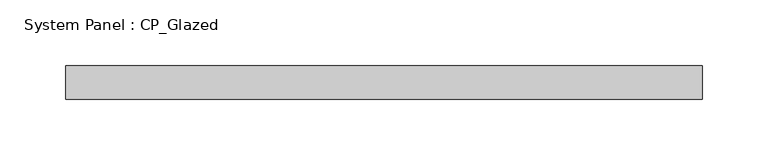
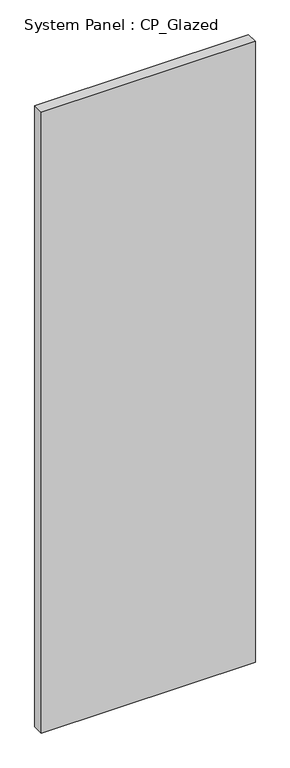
"""IFC4 building model written with IfcOpenShell, lengths in millimetres: plate geometry, System Panel : CP_Glazed."""

import ifcopenshell
import ifcopenshell.guid

model = None  # the IFC model being written
_history = None  # IfcOwnerHistory: only IFC2X3 demands one
_inside = {}  # id of a spatial element -> (the spatial element, [elements in it])
_under = {}  # id of a project, library or spatial element -> (it, [spatial elements below it])
_declared = {}  # id of a project -> (the project, [libraries it declares])
_typed = {}  # id of a type object -> (the type object, [elements of that type])
_made_of = {}  # id of a material, layer set ... -> (it, [elements and type objects made of it])


def new_model(schema):
    """Start an empty IFC model of exactly this schema.

    Asked for "IFC4X3", IfcOpenShell would pick the latest addendum, in which some entities
    have other attributes; the version numbers below select the first issue.
    IFC2X3 requires an IfcOwnerHistory on every rooted entity: one is made here for all.
    """
    global model, _history
    if schema == "IFC4X3":
        model = ifcopenshell.file(schema_version=(4, 3, 0, 0))
    else:
        model = ifcopenshell.file(schema=schema)
    _inside.clear()
    _under.clear()
    _declared.clear()
    _typed.clear()
    _made_of.clear()
    _history = None
    if model.schema == "IFC2X3":
        org = make("IfcOrganization", Name="unknown")
        user = make(
            "IfcPersonAndOrganization",
            ThePerson=make("IfcPerson", FamilyName="unknown"),
            TheOrganization=org,
        )
        app = make(
            "IfcApplication",
            ApplicationDeveloper=org,
            Version="unknown",
            ApplicationFullName="unknown",
            ApplicationIdentifier="unknown",
        )
        _history = make(
            "IfcOwnerHistory",
            OwningUser=user,
            OwningApplication=app,
            ChangeAction="ADDED",
            CreationDate=0,
        )
    return model


def make(cls, **values):
    """One entity of the class cls with the attributes given. An attribute that is None is left unset."""
    return model.create_entity(
        cls, **{name: value for name, value in values.items() if value is not None}
    )


def rooted(cls, **values):
    """An entity with a GlobalId (a new one), such as an element, a storey or a relation."""
    return make(cls, GlobalId=ifcopenshell.guid.new(), OwnerHistory=_history, **values)


def si_unit(unit_type, name, prefix=None):
    """IfcSIUnit, for example si_unit("LENGTHUNIT", "METRE", prefix="MILLI")."""
    return make("IfcSIUnit", UnitType=unit_type, Prefix=prefix, Name=name)


def assignment(units):
    """IfcUnitAssignment: the units of a project."""
    return None if units is None else make("IfcUnitAssignment", Units=units)


def point(xyz):
    """IfcCartesianPoint."""
    return None if xyz is None else make("IfcCartesianPoint", Coordinates=xyz)


def direction(xyz):
    """IfcDirection."""
    return None if xyz is None else make("IfcDirection", DirectionRatios=xyz)


def frame(location, z_axis=None, x_axis=None):
    """IfcAxis2Placement3D, a coordinate frame: its origin and axes. An axis left out is left unset."""
    return make(
        "IfcAxis2Placement3D",
        Location=point(location),
        Axis=direction(z_axis),
        RefDirection=direction(x_axis),
    )


def origin():
    """The frame at (0, 0, 0) with its axes left unset."""
    return frame((0.0, 0.0, 0.0))


def origin_with_axes():
    """The frame at (0, 0, 0) with the z axis (0, 0, 1) and the x axis (1, 0, 0) written out."""
    return frame((0.0, 0.0, 0.0), z_axis=(0.0, 0.0, 1.0), x_axis=(1.0, 0.0, 0.0))


def place(relative_to, where):
    """IfcLocalPlacement: puts the frame where relative to a parent placement (None: the world)."""
    return make(
        "IfcLocalPlacement", PlacementRelTo=relative_to, RelativePlacement=where
    )


def context(
    kind, dimensions, precision=None, world=None, true_north=None, identifier=None
):
    """IfcGeometricRepresentationContext, for example the 3D "Model" context."""
    return make(
        "IfcGeometricRepresentationContext",
        ContextIdentifier=identifier,
        ContextType=kind,
        CoordinateSpaceDimension=dimensions,
        Precision=precision,
        WorldCoordinateSystem=world,
        TrueNorth=true_north,
    )


def project(units=None, contexts=None):
    """IfcProject with its units and contexts."""
    return rooted(
        "IfcProject",
        Name="project",
        RepresentationContexts=contexts,
        UnitsInContext=assignment(units),
    )


def spatial(cls, under=None, at=None, **own):
    """A site, building, storey or space (cls), placed at a placement, below another one or the project."""
    s = rooted(cls, ObjectPlacement=at, **own)
    if under is not None:
        _under.setdefault(under.id(), (under, []))[1].append(s)
    return s


def polyline(points):
    """IfcPolyline through the points."""
    return make("IfcPolyline", Points=[point(p) for p in points])


def outline(outer, holes=None, kind="AREA"):
    """IfcArbitraryClosedProfileDef: a profile drawn as a closed curve; with holes, ...WithVoids."""
    if holes is None:
        return make("IfcArbitraryClosedProfileDef", ProfileType=kind, OuterCurve=outer)
    return make(
        "IfcArbitraryProfileDefWithVoids",
        ProfileType=kind,
        OuterCurve=outer,
        InnerCurves=holes,
    )


def extrude(swept, where, along, depth):
    """IfcExtrudedAreaSolid: the profile swept, set in the frame where, extruded along a direction by depth."""
    return make(
        "IfcExtrudedAreaSolid",
        SweptArea=swept,
        Position=where,
        ExtrudedDirection=direction(along),
        Depth=depth,
    )


def shape(context_of_items, identifier, shape_type, items):
    """IfcShapeRepresentation: the items that make up one representation, for example the "Body"."""
    return make(
        "IfcShapeRepresentation",
        ContextOfItems=context_of_items,
        RepresentationIdentifier=identifier,
        RepresentationType=shape_type,
        Items=items,
    )


def source(mapping_origin, context_of_items, identifier, shape_type, items):
    """IfcRepresentationMap: a shape defined once, which mapped items show again and again."""
    return make(
        "IfcRepresentationMap",
        MappingOrigin=mapping_origin,
        MappedRepresentation=shape(context_of_items, identifier, shape_type, items),
    )


def transform(
    local_origin,
    x_axis=None,
    y_axis=None,
    z_axis=None,
    scale=None,
    scale2=None,
    scale3=None,
    uniform=True,
):
    """IfcCartesianTransformationOperator3D, or its non-uniform kind. x_axis, y_axis, z_axis: its Axis1, 2, 3."""
    if uniform:
        return make(
            "IfcCartesianTransformationOperator3D",
            Axis1=direction(x_axis),
            Axis2=direction(y_axis),
            LocalOrigin=point(local_origin),
            Scale=scale,
            Axis3=direction(z_axis),
        )
    return make(
        "IfcCartesianTransformationOperator3DnonUniform",
        Axis1=direction(x_axis),
        Axis2=direction(y_axis),
        LocalOrigin=point(local_origin),
        Scale=scale,
        Axis3=direction(z_axis),
        Scale2=scale2,
        Scale3=scale3,
    )


def mapped(mapping_source, mapping_target):
    """IfcMappedItem: shows the shape of a source again, moved by a transform."""
    return make(
        "IfcMappedItem", MappingSource=mapping_source, MappingTarget=mapping_target
    )


def made_of(thing, what):
    """Note that an element or type object is made of a material, layer set ...; save() writes the relation."""
    if what is not None:
        _made_of.setdefault(what.id(), (what, []))[1].append(thing)
    return thing


def element(
    cls,
    number,
    at=None,
    inside=None,
    cuts=None,
    type_object=None,
    material=None,
    context=None,
    identifier="Body",
    shape_type=None,
    held_by="IfcProductDefinitionShape",
    body=None,
    shapes=None,
    **own,
):
    """One element of the class cls, such as IfcWall. Its Tag is "e" and its number.

    at: its placement. inside: the storey or other place that contains it. cuts: it is an
    opening in that element (IfcRelVoidsElement). A single representation is given by context,
    identifier, shape_type and body (its items); several are given by shapes. held_by: the class
    of the entity that holds the representations. save() writes the other relations.
    """
    e = rooted(cls, Tag="e%d" % number, ObjectPlacement=at, **own)
    if body is not None:
        shapes = [shape(context, identifier, shape_type, body)]
    if shapes is not None:
        e.Representation = make(held_by, Representations=shapes)
    if inside is not None:
        _inside.setdefault(inside.id(), (inside, []))[1].append(e)
    if cuts is not None:
        rooted(
            "IfcRelVoidsElement", RelatingBuildingElement=cuts, RelatedOpeningElement=e
        )
    if type_object is not None:
        _typed.setdefault(type_object.id(), (type_object, []))[1].append(e)
    return made_of(e, material)


def aggregate(whole, parts):
    """IfcRelAggregates: a whole, such as a stair, and the parts it consists of."""
    return rooted("IfcRelAggregates", RelatingObject=whole, RelatedObjects=parts)


def save(model, path):
    """Write the relations noted so far, then the file.

    IfcRelAggregates (storeys below a building ...), IfcRelContainedInSpatialStructure (elements
    in a storey), IfcRelDefinesByType, IfcRelAssociatesMaterial and IfcRelDeclares: one each for
    every whole, place, type object, material and project.
    """
    for whole, parts in _under.values():
        aggregate(whole, parts)
    for where, things in _inside.values():
        rooted(
            "IfcRelContainedInSpatialStructure",
            RelatedElements=things,
            RelatingStructure=where,
        )
    for kind, things in _typed.values():
        rooted("IfcRelDefinesByType", RelatedObjects=things, RelatingType=kind)
    for what, things in _made_of.values():
        rooted("IfcRelAssociatesMaterial", RelatedObjects=things, RelatingMaterial=what)
    for by, libraries in _declared.values():
        rooted("IfcRelDeclares", RelatingContext=by, RelatedDefinitions=libraries)
    model.write(path)


def system_panel_cp_glazed_c0808256(model_context):
    return source(origin(), model_context, "Body", "SweptSolid", [
        extrude(outline(polyline([(241.3, 19.05), (-241.3, 19.05), (-241.3, 44.45), (241.3, 44.45), (241.3, 19.05)])), origin_with_axes(), (0.0, 0.0, 1.0), 1479.55),
    ])


if __name__ == "__main__":
    model = new_model("IFC4")
    model_context = context("Model", 3, world=origin())
    ifc_project = project(units=[si_unit("LENGTHUNIT", "METRE", prefix="MILLI")], contexts=[model_context])
    site = spatial("IfcSite", under=ifc_project)
    building = spatial("IfcBuilding", under=site)
    placement = place(None, origin())
    system_panel_cp_glazed_shape = system_panel_cp_glazed_c0808256(model_context)
    element("IfcPlate", 1, ObjectType="System Panel : CP_Glazed", at=placement, inside=building, context=model_context, shape_type="MappedRepresentation", body=[
        mapped(system_panel_cp_glazed_shape, transform((0.0, 0.0, 0.0), x_axis=(1.0, 0.0, 0.0), y_axis=(0.0, 1.0, 0.0), z_axis=(0.0, 0.0, 1.0))),
    ])
    save(model, "model.ifc")
